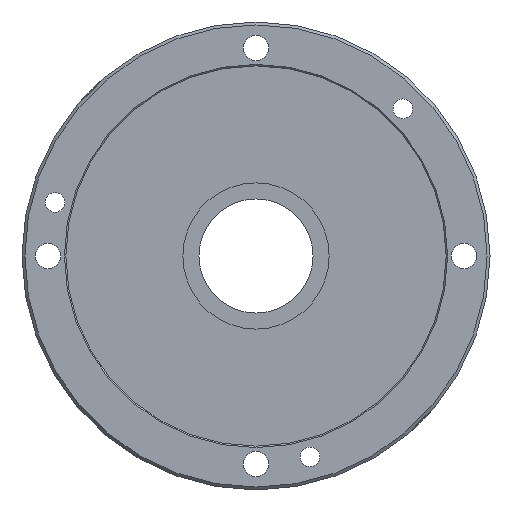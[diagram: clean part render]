
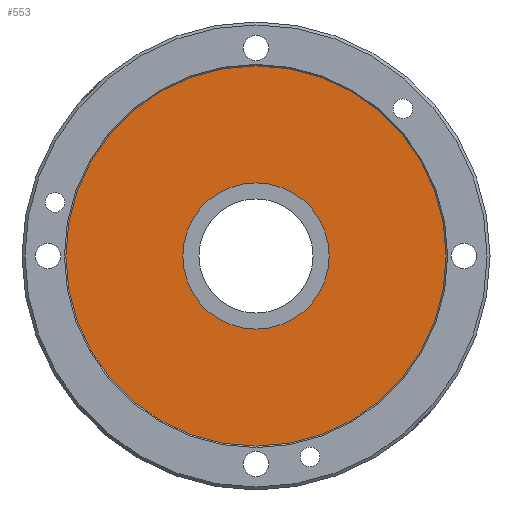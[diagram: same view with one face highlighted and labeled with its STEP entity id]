
A CAD part, front view. The second image highlights one B-rep face of the part: STEP entity #553.
In plain terms, the highlighted planar face has unit normal (0, -1, 0).
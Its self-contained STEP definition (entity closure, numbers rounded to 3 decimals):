
#39=FACE_BOUND('',#138,.T.);
#44=PLANE('',#650);
#91=FACE_OUTER_BOUND('',#137,.T.);
#137=EDGE_LOOP('',(#512,#513));
#138=EDGE_LOOP('',(#514,#515));
#199=CIRCLE('',#600,65.);
#200=CIRCLE('',#601,65.);
#231=CIRCLE('',#651,25.);
#232=CIRCLE('',#652,25.);
#252=VERTEX_POINT('',#882);
#253=VERTEX_POINT('',#884);
#289=VERTEX_POINT('',#1060);
#290=VERTEX_POINT('',#1061);
#314=EDGE_CURVE('',#253,#252,#199,.T.);
#315=EDGE_CURVE('',#252,#253,#200,.T.);
#365=EDGE_CURVE('',#289,#290,#231,.T.);
#366=EDGE_CURVE('',#290,#289,#232,.T.);
#512=ORIENTED_EDGE('',*,*,#314,.T.);
#513=ORIENTED_EDGE('',*,*,#315,.T.);
#514=ORIENTED_EDGE('',*,*,#365,.F.);
#515=ORIENTED_EDGE('',*,*,#366,.F.);
#553=ADVANCED_FACE('',(#91,#39),#44,.T.);
#600=AXIS2_PLACEMENT_3D('',#885,#710,#711);
#601=AXIS2_PLACEMENT_3D('',#886,#712,#713);
#650=AXIS2_PLACEMENT_3D('',#1059,#825,#826);
#651=AXIS2_PLACEMENT_3D('',#1062,#827,#828);
#652=AXIS2_PLACEMENT_3D('',#1063,#829,#830);
#710=DIRECTION('center_axis',(0.,-1.,0.));
#711=DIRECTION('ref_axis',(1.,0.,0.));
#712=DIRECTION('center_axis',(0.,-1.,0.));
#713=DIRECTION('ref_axis',(1.,0.,0.));
#825=DIRECTION('center_axis',(0.,-1.,0.));
#826=DIRECTION('ref_axis',(0.,0.,-1.));
#827=DIRECTION('center_axis',(0.,-1.,0.));
#828=DIRECTION('ref_axis',(1.,0.,0.));
#829=DIRECTION('center_axis',(0.,-1.,0.));
#830=DIRECTION('ref_axis',(1.,0.,0.));
#882=CARTESIAN_POINT('',(-65.,6.3,0.));
#884=CARTESIAN_POINT('',(65.,6.3,0.));
#885=CARTESIAN_POINT('Origin',(0.,6.3,0.));
#886=CARTESIAN_POINT('Origin',(0.,6.3,0.));
#1059=CARTESIAN_POINT('Origin',(25.,6.3,0.));
#1060=CARTESIAN_POINT('',(25.,6.3,0.));
#1061=CARTESIAN_POINT('',(-25.,6.3,0.));
#1062=CARTESIAN_POINT('Origin',(0.,6.3,0.));
#1063=CARTESIAN_POINT('Origin',(0.,6.3,0.));
